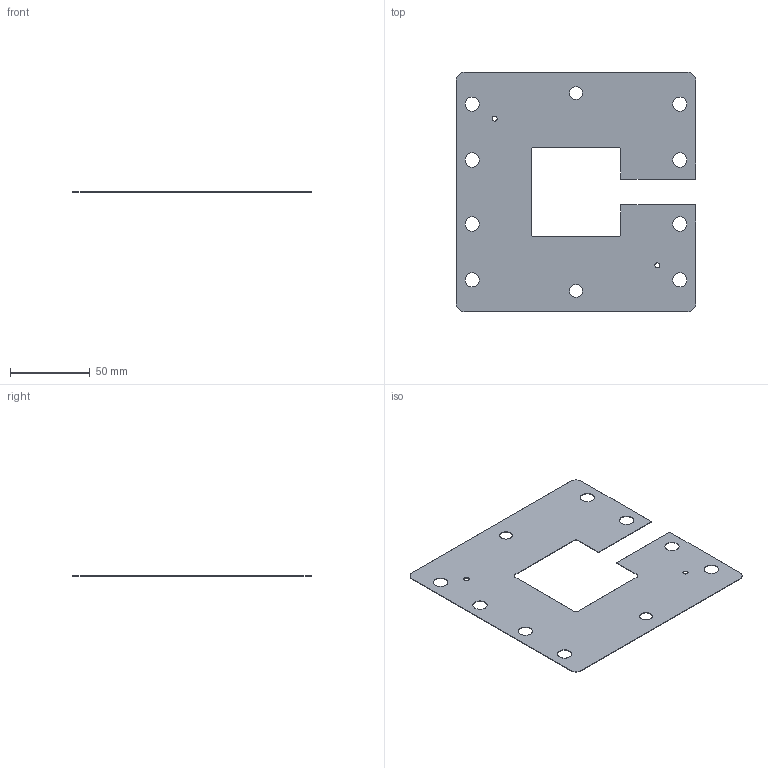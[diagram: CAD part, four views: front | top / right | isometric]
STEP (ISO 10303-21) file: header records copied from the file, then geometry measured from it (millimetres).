
FILE_DESCRIPTION(('FreeCAD Model'),'2;1');
FILE_NAME('Open CASCADE Shape Model','2026-10-30T14:44:37',('FreeCAD'),( 'FreeCAD'),'Open CASCADE STEP processor 7.8','FreeCAD','Unknown');
FILE_SCHEMA(('AUTOMOTIVE_DESIGN { 1 0 10303 214 1 1 1 1 }'));
Length unit declared in the file: millimetre
Products named in the file (1): Open CASCADE STEP translator 7.8 3
Bounding box: 150 x 150 x 0.35 mm (x, y, z)
Volume: 6283.7 mm3; surface area: 36316.7 mm2
Topology: 1 solids, 1 shells, 34 faces, 96 edges, 64 vertices
Faces by surface type: cylinder 20, plane 14
Full cylindrical faces by diameter (mm): 3.2 x2, 8 x2, 9 x8
Entity records: 1178 total; most frequent: DIRECTION 206, CARTESIAN_POINT 195, ORIENTED_EDGE 192, EDGE_CURVE 96, AXIS2_PLACEMENT_3D 75, VERTEX_POINT 64, FACE_BOUND 58, EDGE_LOOP 58
